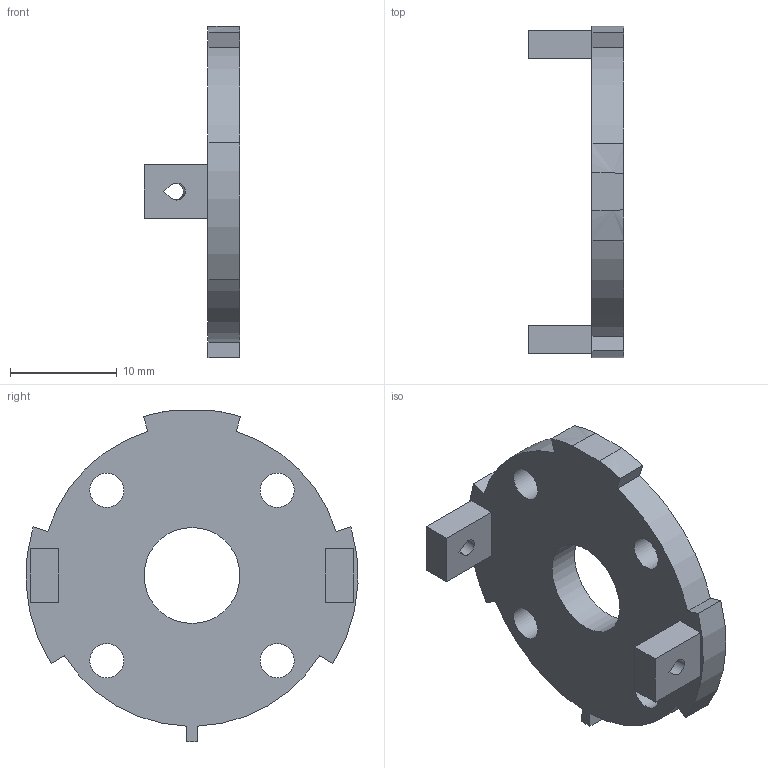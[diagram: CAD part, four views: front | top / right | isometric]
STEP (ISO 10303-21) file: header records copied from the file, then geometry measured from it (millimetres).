
FILE_DESCRIPTION(('SkyG Speed 90B - revision C6B-11 - 2026-10-11','M1-motor-plate'),'2;1');
FILE_NAME('M1-motor-plate_C6B-11','2026-10-11T13:31:17',('Author'),( 'Open CASCADE'),'Open CASCADE STEP processor 7.9','Open CASCADE 7.9' ,'Unknown');
FILE_SCHEMA(('AUTOMOTIVE_DESIGN { 1 0 10303 214 1 1 1 1 }'));
Length unit declared in the file: millimetre
Products named in the file (1): M1-motor-plate C6B-11
Bounding box: 9 x 31.17 x 31.11 mm (x, y, z)
Volume: 1902.6 mm3; surface area: 1891.6 mm2
Topology: 1 solids, 1 shells, 43 faces, 121 edges, 82 vertices
Faces by surface type: plane 25, cylinder 16, bspline 2
Full cylindrical faces by diameter (mm): 3.2 x4, 9 x1
Entity records: 3316 total; most frequent: CARTESIAN_POINT 1061, DIRECTION 351, ORIENTED_EDGE 242, PCURVE 242, DEFINITIONAL_REPRESENTATION 242, LINE 159, VECTOR 159, B_SPLINE_CURVE_WITH_KNOTS 132
